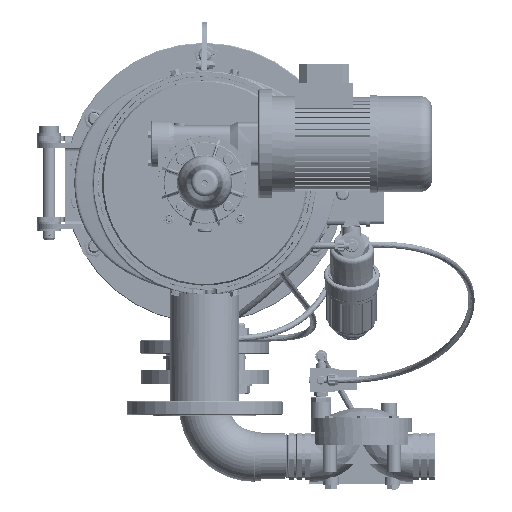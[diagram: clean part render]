
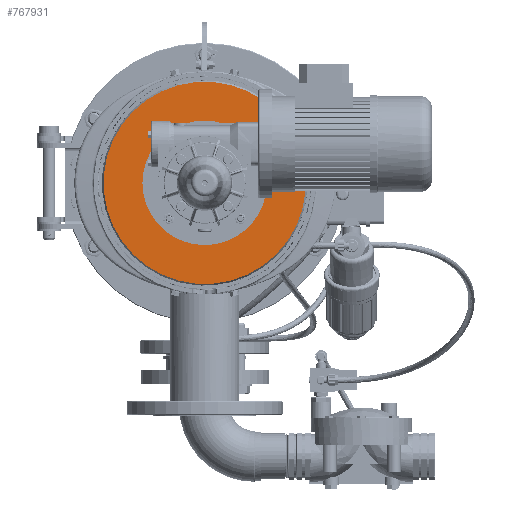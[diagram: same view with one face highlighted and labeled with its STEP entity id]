
A CAD part, left-side view. The second image highlights one B-rep face of the part: STEP entity #767931.
In plain terms, the highlighted planar face has unit normal (-1, 0, 0).
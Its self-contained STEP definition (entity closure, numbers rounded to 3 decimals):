
#4228 = CARTESIAN_POINT ( 'NONE',  ( -197.772, -44.467, 30.315 ) ) ;
#10715 = CARTESIAN_POINT ( 'NONE',  ( -197.772, 47.457, 30.315 ) ) ;
#31754 = CARTESIAN_POINT ( 'NONE',  ( -197.772, -90.429, -107.571 ) ) ;
#37962 = CIRCLE ( 'NONE', #778918, 130. ) ;
#40137 = AXIS2_PLACEMENT_3D ( 'NONE', #262628, #545628, #248903 ) ;
#59946 = DIRECTION ( 'NONE',  ( 0., -0.707, 0.707 ) ) ;
#61456 = DIRECTION ( 'NONE',  ( 1., 0., 0. ) ) ;
#62217 = CARTESIAN_POINT ( 'NONE',  ( -197.772, 44.098, 33.674 ) ) ;
#64769 = DIRECTION ( 'NONE',  ( 0., -0.707, 0.707 ) ) ;
#66683 = DIRECTION ( 'NONE',  ( 1., 0., 0. ) ) ;
#66843 = AXIS2_PLACEMENT_3D ( 'NONE', #10715, #66683, #349856 ) ;
#67258 = EDGE_LOOP ( 'NONE', ( #906019 ) ) ;
#74968 = EDGE_LOOP ( 'NONE', ( #450253 ) ) ;
#94079 = EDGE_LOOP ( 'NONE', ( #686828 ) ) ;
#96745 = CIRCLE ( 'NONE', #66843, 4.75 ) ;
#110713 = PLANE ( 'NONE',  #169977 ) ;
#132355 = EDGE_CURVE ( 'NONE', #259636, #259636, #812425, .T. ) ;
#134115 = CARTESIAN_POINT ( 'NONE',  ( -197.772, 19.88, -34.032 ) ) ;
#144512 = DIRECTION ( 'NONE',  ( 0., -0.707, 0.707 ) ) ;
#163795 = VERTEX_POINT ( 'NONE', #516728 ) ;
#169977 = AXIS2_PLACEMENT_3D ( 'NONE', #31754, #560393, #555864 ) ;
#205066 = VERTEX_POINT ( 'NONE', #622998 ) ;
#246062 = VERTEX_POINT ( 'NONE', #329380 ) ;
#247961 = EDGE_CURVE ( 'NONE', #326008, #326008, #720332, .T. ) ;
#248903 = DIRECTION ( 'NONE',  ( 0., -0.707, 0.707 ) ) ;
#259636 = VERTEX_POINT ( 'NONE', #899977 ) ;
#262628 = CARTESIAN_POINT ( 'NONE',  ( -197.772, -6.917, 15.746 ) ) ;
#269047 = DIRECTION ( 'NONE',  ( 0., 0.707, -0.707 ) ) ;
#272355 = EDGE_LOOP ( 'NONE', ( #764157 ) ) ;
#278460 = AXIS2_PLACEMENT_3D ( 'NONE', #570281, #770198, #59946 ) ;
#290797 = AXIS2_PLACEMENT_3D ( 'NONE', #4228, #357120, #64769 ) ;
#302207 = DIRECTION ( 'NONE',  ( 1., 0., 0. ) ) ;
#302325 = VERTEX_POINT ( 'NONE', #798884 ) ;
#304610 = CARTESIAN_POINT ( 'NONE',  ( -197.772, 32.887, -24.059 ) ) ;
#307738 = CARTESIAN_POINT ( 'NONE',  ( -197.772, -47.826, 33.674 ) ) ;
#326008 = VERTEX_POINT ( 'NONE', #307738 ) ;
#329380 = CARTESIAN_POINT ( 'NONE',  ( -197.772, 93.419, -107.571 ) ) ;
#329973 = EDGE_LOOP ( 'NONE', ( #727676 ) ) ;
#333345 = FACE_BOUND ( 'NONE', #893884, .T. ) ;
#337429 = VERTEX_POINT ( 'NONE', #704069 ) ;
#349856 = DIRECTION ( 'NONE',  ( 0., -0.707, 0.707 ) ) ;
#357120 = DIRECTION ( 'NONE',  ( 1., 0., 0. ) ) ;
#379440 = ORIENTED_EDGE ( 'NONE', *, *, #132355, .T. ) ;
#408266 = CARTESIAN_POINT ( 'NONE',  ( -197.772, 1.495, -15.647 ) ) ;
#419117 = ORIENTED_EDGE ( 'NONE', *, *, #588896, .T. ) ;
#434977 = EDGE_CURVE ( 'NONE', #163795, #163795, #575287, .T. ) ;
#450253 = ORIENTED_EDGE ( 'NONE', *, *, #434977, .T. ) ;
#462019 = EDGE_CURVE ( 'NONE', #205066, #205066, #807629, .T. ) ;
#463537 = FACE_BOUND ( 'NONE', #479761, .T. ) ;
#479761 = EDGE_LOOP ( 'NONE', ( #419117 ) ) ;
#501184 = AXIS2_PLACEMENT_3D ( 'NONE', #832142, #61456, #623285 ) ;
#504049 = ORIENTED_EDGE ( 'NONE', *, *, #794015, .F. ) ;
#506530 = CARTESIAN_POINT ( 'NONE',  ( -197.772, -44.467, -61.609 ) ) ;
#515800 = EDGE_LOOP ( 'NONE', ( #649578 ) ) ;
#516728 = CARTESIAN_POINT ( 'NONE',  ( -197.772, 44.098, -58.25 ) ) ;
#528277 = CIRCLE ( 'NONE', #617815, 4.75 ) ;
#545628 = DIRECTION ( 'NONE',  ( 1., 0., 0. ) ) ;
#555864 = DIRECTION ( 'NONE',  ( 0., -0.707, 0.707 ) ) ;
#559948 = DIRECTION ( 'NONE',  ( 0., 0.707, -0.707 ) ) ;
#560393 = DIRECTION ( 'NONE',  ( 1., 0., 0. ) ) ;
#570281 = CARTESIAN_POINT ( 'NONE',  ( -197.772, -21.486, -38.628 ) ) ;
#575287 = CIRCLE ( 'NONE', #501184, 4.75 ) ;
#588896 = EDGE_CURVE ( 'NONE', #302325, #302325, #885002, .T. ) ;
#595717 = CIRCLE ( 'NONE', #685290, 26. ) ;
#602741 = FACE_BOUND ( 'NONE', #272355, .T. ) ;
#611943 = FACE_BOUND ( 'NONE', #94079, .T. ) ;
#616484 = FACE_OUTER_BOUND ( 'NONE', #515800, .T. ) ;
#617221 = DIRECTION ( 'NONE',  ( -1., 0., 0. ) ) ;
#617815 = AXIS2_PLACEMENT_3D ( 'NONE', #506530, #302207, #144512 ) ;
#622998 = CARTESIAN_POINT ( 'NONE',  ( -197.772, 30.236, -21.407 ) ) ;
#623285 = DIRECTION ( 'NONE',  ( 0., -0.707, 0.707 ) ) ;
#647995 = CARTESIAN_POINT ( 'NONE',  ( -197.772, 1.495, -15.647 ) ) ;
#649578 = ORIENTED_EDGE ( 'NONE', *, *, #785305, .T. ) ;
#685290 = AXIS2_PLACEMENT_3D ( 'NONE', #647995, #861364, #559948 ) ;
#686130 = FACE_BOUND ( 'NONE', #74968, .T. ) ;
#686828 = ORIENTED_EDGE ( 'NONE', *, *, #881094, .T. ) ;
#689080 = AXIS2_PLACEMENT_3D ( 'NONE', #304610, #866182, #875281 ) ;
#704069 = CARTESIAN_POINT ( 'NONE',  ( -197.772, -47.826, -58.25 ) ) ;
#709765 = VERTEX_POINT ( 'NONE', #134115 ) ;
#720332 = CIRCLE ( 'NONE', #290797, 4.75 ) ;
#727676 = ORIENTED_EDGE ( 'NONE', *, *, #462019, .T. ) ;
#746678 = FACE_BOUND ( 'NONE', #830224, .T. ) ;
#764157 = ORIENTED_EDGE ( 'NONE', *, *, #247961, .T. ) ;
#767931 = ADVANCED_FACE ( 'NONE', ( #611943, #602741, #463537, #825373, #686130, #885768, #746678, #333345, #616484 ), #110713, .F. ) ;
#770198 = DIRECTION ( 'NONE',  ( 1., 0., 0. ) ) ;
#778918 = AXIS2_PLACEMENT_3D ( 'NONE', #408266, #617221, #269047 ) ;
#785305 = EDGE_CURVE ( 'NONE', #246062, #246062, #37962, .T. ) ;
#794015 = EDGE_CURVE ( 'NONE', #709765, #709765, #595717, .T. ) ;
#798884 = CARTESIAN_POINT ( 'NONE',  ( -197.772, -9.569, 18.397 ) ) ;
#807629 = CIRCLE ( 'NONE', #689080, 3.75 ) ;
#812425 = CIRCLE ( 'NONE', #278460, 3.75 ) ;
#825373 = FACE_BOUND ( 'NONE', #329973, .T. ) ;
#830224 = EDGE_LOOP ( 'NONE', ( #379440 ) ) ;
#831049 = EDGE_CURVE ( 'NONE', #337429, #337429, #528277, .T. ) ;
#832142 = CARTESIAN_POINT ( 'NONE',  ( -197.772, 47.457, -61.609 ) ) ;
#861364 = DIRECTION ( 'NONE',  ( -1., 0., 0. ) ) ;
#866182 = DIRECTION ( 'NONE',  ( 1., 0., 0. ) ) ;
#875281 = DIRECTION ( 'NONE',  ( 0., -0.707, 0.707 ) ) ;
#881094 = EDGE_CURVE ( 'NONE', #902483, #902483, #96745, .T. ) ;
#885002 = CIRCLE ( 'NONE', #40137, 3.75 ) ;
#885768 = FACE_BOUND ( 'NONE', #67258, .T. ) ;
#893884 = EDGE_LOOP ( 'NONE', ( #504049 ) ) ;
#899977 = CARTESIAN_POINT ( 'NONE',  ( -197.772, -24.138, -35.976 ) ) ;
#902483 = VERTEX_POINT ( 'NONE', #62217 ) ;
#906019 = ORIENTED_EDGE ( 'NONE', *, *, #831049, .T. ) ;
